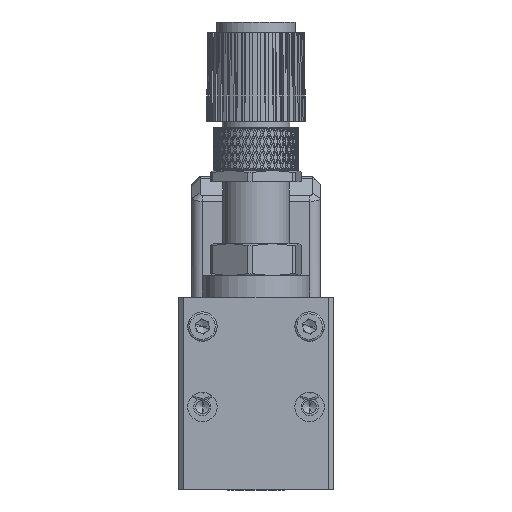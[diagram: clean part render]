
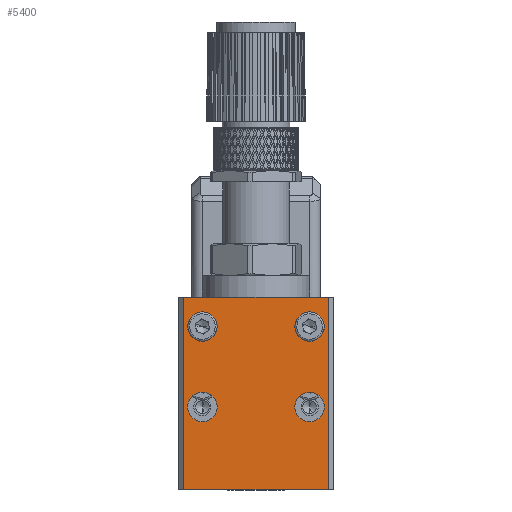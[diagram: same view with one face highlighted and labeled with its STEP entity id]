
A CAD part, left-side view. The second image highlights one B-rep face of the part: STEP entity #5400.
In plain terms, the highlighted planar face has unit normal (-1, 0, 0).
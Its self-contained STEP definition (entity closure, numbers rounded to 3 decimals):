
#171 = EDGE_CURVE ( 'NONE', #61839, #112753, #36492, .T. ) ;
#2359 = CARTESIAN_POINT ( 'NONE',  ( -69.002, 10., 7.5 ) ) ;
#4313 = CARTESIAN_POINT ( 'NONE',  ( -69.002, -7.25, -7.5 ) ) ;
#5193 = ORIENTED_EDGE ( 'NONE', *, *, #171, .F. ) ;
#5400 = ADVANCED_FACE ( 'NONE', ( #103462, #112712, #40910, #14875, #50153 ), #31639, .T. ) ;
#6680 = DIRECTION ( 'NONE',  ( -1., 0., 0. ) ) ;
#7584 = CARTESIAN_POINT ( 'NONE',  ( -69.002, -12.75, 7.5 ) ) ;
#8754 = EDGE_CURVE ( 'NONE', #92134, #87389, #99939, .T. ) ;
#9001 = AXIS2_PLACEMENT_3D ( 'NONE', #99408, #82021, #20107 ) ;
#9175 = EDGE_CURVE ( 'NONE', #82225, #84864, #60167, .T. ) ;
#9817 = ORIENTED_EDGE ( 'NONE', *, *, #23320, .T. ) ;
#10913 = ORIENTED_EDGE ( 'NONE', *, *, #81637, .F. ) ;
#11646 = DIRECTION ( 'NONE',  ( 0., -1., 0. ) ) ;
#14359 = VECTOR ( 'NONE', #21312, 1000. ) ;
#14875 = FACE_BOUND ( 'NONE', #37445, .T. ) ;
#16345 = DIRECTION ( 'NONE',  ( 0., -1., 0. ) ) ;
#16600 = CARTESIAN_POINT ( 'NONE',  ( -69.002, -10., -58. ) ) ;
#17351 = AXIS2_PLACEMENT_3D ( 'NONE', #41404, #6680, #58737 ) ;
#17373 = VERTEX_POINT ( 'NONE', #76202 ) ;
#20107 = DIRECTION ( 'NONE',  ( 0., -1., 0. ) ) ;
#21204 = EDGE_CURVE ( 'NONE', #79654, #92134, #84196, .T. ) ;
#21312 = DIRECTION ( 'NONE',  ( 0., 0., -1. ) ) ;
#23246 = CARTESIAN_POINT ( 'NONE',  ( -69.002, -10., 7.5 ) ) ;
#23320 = EDGE_CURVE ( 'NONE', #87389, #71938, #101790, .T. ) ;
#23400 = CARTESIAN_POINT ( 'NONE',  ( -69.002, 0., -23. ) ) ;
#24199 = EDGE_CURVE ( 'NONE', #84864, #82225, #88495, .T. ) ;
#24453 = CIRCLE ( 'NONE', #66947, 2.75 ) ;
#26511 = DIRECTION ( 'NONE',  ( -1., 0., 0. ) ) ;
#27601 = ORIENTED_EDGE ( 'NONE', *, *, #43461, .F. ) ;
#29058 = VERTEX_POINT ( 'NONE', #4313 ) ;
#31639 = PLANE ( 'NONE',  #101323 ) ;
#32792 = CIRCLE ( 'NONE', #56716, 2.75 ) ;
#33359 = DIRECTION ( 'NONE',  ( -1., 0., 0. ) ) ;
#36035 = VECTOR ( 'NONE', #83704, 1000. ) ;
#36492 = CIRCLE ( 'NONE', #80880, 2.75 ) ;
#37445 = EDGE_LOOP ( 'NONE', ( #69577, #41925 ) ) ;
#38288 = CARTESIAN_POINT ( 'NONE',  ( -69.002, -13.5, -23. ) ) ;
#38509 = EDGE_CURVE ( 'NONE', #113193, #101515, #32792, .T. ) ;
#38990 = DIRECTION ( 'NONE',  ( 0., -1., 0. ) ) ;
#40910 = FACE_BOUND ( 'NONE', #43243, .T. ) ;
#41404 = CARTESIAN_POINT ( 'NONE',  ( -69.002, 10., 7.5 ) ) ;
#41644 = CARTESIAN_POINT ( 'NONE',  ( -69.002, 7.25, 7.5 ) ) ;
#41745 = EDGE_LOOP ( 'NONE', ( #91284, #5193 ) ) ;
#41925 = ORIENTED_EDGE ( 'NONE', *, *, #24199, .F. ) ;
#42672 = ORIENTED_EDGE ( 'NONE', *, *, #38509, .F. ) ;
#43243 = EDGE_LOOP ( 'NONE', ( #95404, #42672 ) ) ;
#43461 = EDGE_CURVE ( 'NONE', #17373, #29058, #49803, .T. ) ;
#44475 = DIRECTION ( 'NONE',  ( 0., -1., 0. ) ) ;
#44838 = CARTESIAN_POINT ( 'NONE',  ( -69.002, 13.5, 13. ) ) ;
#49803 = CIRCLE ( 'NONE', #66377, 2.75 ) ;
#50153 = FACE_OUTER_BOUND ( 'NONE', #56273, .T. ) ;
#50943 = AXIS2_PLACEMENT_3D ( 'NONE', #107898, #82995, #38990 ) ;
#51059 = CARTESIAN_POINT ( 'NONE',  ( -69.002, -10., 7.5 ) ) ;
#51166 = LINE ( 'NONE', #23400, #105942 ) ;
#54165 = ORIENTED_EDGE ( 'NONE', *, *, #8754, .T. ) ;
#55961 = CARTESIAN_POINT ( 'NONE',  ( -69.002, -10., -7.5 ) ) ;
#56273 = EDGE_LOOP ( 'NONE', ( #58526, #54165, #9817, #10913 ) ) ;
#56716 = AXIS2_PLACEMENT_3D ( 'NONE', #23246, #58522, #93893 ) ;
#58522 = DIRECTION ( 'NONE',  ( -1., 0., 0. ) ) ;
#58526 = ORIENTED_EDGE ( 'NONE', *, *, #21204, .T. ) ;
#58737 = DIRECTION ( 'NONE',  ( 0., -1., 0. ) ) ;
#60167 = CIRCLE ( 'NONE', #50943, 2.75 ) ;
#61658 = CIRCLE ( 'NONE', #17351, 2.75 ) ;
#61839 = VERTEX_POINT ( 'NONE', #99485 ) ;
#62302 = AXIS2_PLACEMENT_3D ( 'NONE', #51059, #104348, #16345 ) ;
#64128 = CARTESIAN_POINT ( 'NONE',  ( -69.002, 13.5, -58. ) ) ;
#65136 = EDGE_CURVE ( 'NONE', #112753, #61839, #61658, .T. ) ;
#65781 = DIRECTION ( 'NONE',  ( 0., -1., 0. ) ) ;
#66284 = CARTESIAN_POINT ( 'NONE',  ( -69.002, -10., 13. ) ) ;
#66377 = AXIS2_PLACEMENT_3D ( 'NONE', #55961, #66922, #65781 ) ;
#66792 = DIRECTION ( 'NONE',  ( 0., 0., 1. ) ) ;
#66922 = DIRECTION ( 'NONE',  ( -1., 0., 0. ) ) ;
#66947 = AXIS2_PLACEMENT_3D ( 'NONE', #69934, #26511, #44475 ) ;
#68071 = DIRECTION ( 'NONE',  ( 0., -1., 0. ) ) ;
#68776 = CARTESIAN_POINT ( 'NONE',  ( -69.002, 13.5, -23. ) ) ;
#69577 = ORIENTED_EDGE ( 'NONE', *, *, #9175, .F. ) ;
#69934 = CARTESIAN_POINT ( 'NONE',  ( -69.002, -10., -7.5 ) ) ;
#71938 = VERTEX_POINT ( 'NONE', #68776 ) ;
#74150 = DIRECTION ( 'NONE',  ( -1., 0., 0. ) ) ;
#76202 = CARTESIAN_POINT ( 'NONE',  ( -69.002, -12.75, -7.5 ) ) ;
#77223 = DIRECTION ( 'NONE',  ( 0., 1., 0. ) ) ;
#79163 = ORIENTED_EDGE ( 'NONE', *, *, #81434, .F. ) ;
#79654 = VERTEX_POINT ( 'NONE', #38288 ) ;
#80880 = AXIS2_PLACEMENT_3D ( 'NONE', #2359, #74150, #11646 ) ;
#81434 = EDGE_CURVE ( 'NONE', #29058, #17373, #24453, .T. ) ;
#81447 = CARTESIAN_POINT ( 'NONE',  ( -69.002, -13.5, 13. ) ) ;
#81637 = EDGE_CURVE ( 'NONE', #79654, #71938, #51166, .T. ) ;
#82021 = DIRECTION ( 'NONE',  ( -1., 0., 0. ) ) ;
#82225 = VERTEX_POINT ( 'NONE', #100734 ) ;
#82995 = DIRECTION ( 'NONE',  ( -1., 0., 0. ) ) ;
#83704 = DIRECTION ( 'NONE',  ( 0., 1., 0. ) ) ;
#84196 = LINE ( 'NONE', #110844, #113955 ) ;
#84864 = VERTEX_POINT ( 'NONE', #111726 ) ;
#87389 = VERTEX_POINT ( 'NONE', #44838 ) ;
#88495 = CIRCLE ( 'NONE', #9001, 2.75 ) ;
#91284 = ORIENTED_EDGE ( 'NONE', *, *, #65136, .F. ) ;
#92134 = VERTEX_POINT ( 'NONE', #81447 ) ;
#93893 = DIRECTION ( 'NONE',  ( 0., -1., 0. ) ) ;
#95404 = ORIENTED_EDGE ( 'NONE', *, *, #107094, .F. ) ;
#99408 = CARTESIAN_POINT ( 'NONE',  ( -69.002, 10., -7.5 ) ) ;
#99485 = CARTESIAN_POINT ( 'NONE',  ( -69.002, 12.75, 7.5 ) ) ;
#99939 = LINE ( 'NONE', #66284, #36035 ) ;
#100734 = CARTESIAN_POINT ( 'NONE',  ( -69.002, 7.25, -7.5 ) ) ;
#101182 = CARTESIAN_POINT ( 'NONE',  ( -69.002, -7.25, 7.5 ) ) ;
#101323 = AXIS2_PLACEMENT_3D ( 'NONE', #16600, #33359, #68071 ) ;
#101515 = VERTEX_POINT ( 'NONE', #7584 ) ;
#101790 = LINE ( 'NONE', #64128, #14359 ) ;
#103462 = FACE_BOUND ( 'NONE', #41745, .T. ) ;
#104348 = DIRECTION ( 'NONE',  ( -1., 0., 0. ) ) ;
#105942 = VECTOR ( 'NONE', #77223, 1000. ) ;
#107094 = EDGE_CURVE ( 'NONE', #101515, #113193, #114094, .T. ) ;
#107898 = CARTESIAN_POINT ( 'NONE',  ( -69.002, 10., -7.5 ) ) ;
#110844 = CARTESIAN_POINT ( 'NONE',  ( -69.002, -13.5, -58. ) ) ;
#111317 = EDGE_LOOP ( 'NONE', ( #27601, #79163 ) ) ;
#111726 = CARTESIAN_POINT ( 'NONE',  ( -69.002, 12.75, -7.5 ) ) ;
#112712 = FACE_BOUND ( 'NONE', #111317, .T. ) ;
#112753 = VERTEX_POINT ( 'NONE', #41644 ) ;
#113193 = VERTEX_POINT ( 'NONE', #101182 ) ;
#113955 = VECTOR ( 'NONE', #66792, 1000. ) ;
#114094 = CIRCLE ( 'NONE', #62302, 2.75 ) ;
